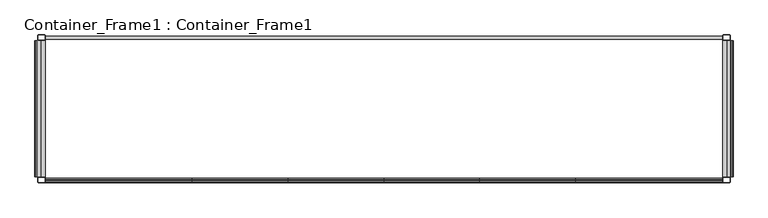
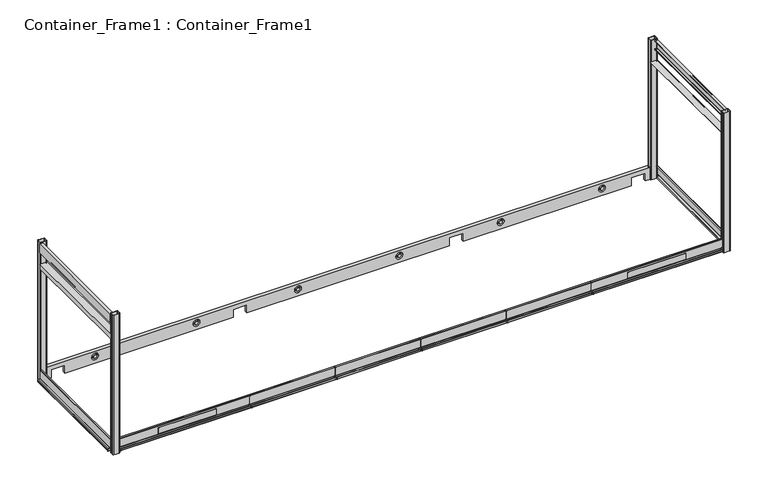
"""IFC4 building model written with IfcOpenShell, lengths in millimetres: beam geometry, Container_Frame1 : Container_Frame1."""

from ifc_helpers import new_model, si_unit, point, frame, frame_2d, origin, place, context, project, spatial, polyline, circle_curve, trimmed, segment, composite_curve, outline, extrude, source, transform, mapped, element, save


def container_frame1_container_frame1_d53c7349(model_context):
    return source(origin(), model_context, "Body", "SweptSolid", [
        extrude(outline(composite_curve([segment(polyline([(6789.0086196, -79.6304509), (6668.5913804, -79.6304509)]), True, "CONTINUOUS"), segment(trimmed(circle_curve(frame_2d((6668.5913804, -63.6390705)), 15.9913804), [point((6668.5913804, -79.6304509))], [point((6652.6, -63.6390705))], False, "CARTESIAN"), True, "CONTINUOUS"), segment(polyline([(6652.6, -63.6390705), (6652.6, 5.9781687)]), True, "CONTINUOUS"), segment(trimmed(circle_curve(frame_2d((6668.5913804, 5.9781687)), 15.9913804), [point((6652.6, 5.9781687))], [point((6668.5913804, 21.9695491))], False, "CARTESIAN"), True, "CONTINUOUS"), segment(polyline([(6668.5913804, 21.9695491), (6789.0086196, 21.9695491)]), True, "CONTINUOUS"), segment(trimmed(circle_curve(frame_2d((6789.0086196, 5.9781687)), 15.9913804), [point((6789.0086196, 21.9695491))], [point((6805.0, 5.9781687))], False, "CARTESIAN"), True, "CONTINUOUS"), segment(polyline([(6805.0, 5.9781687), (6805.0, -63.6390705)]), True, "CONTINUOUS"), segment(trimmed(circle_curve(frame_2d((6789.0086196, -63.6390705)), 15.9913804), [point((6805.0, -63.6390705))], [point((6789.0086196, -79.6304509))], False, "CARTESIAN"), True, "CONTINUOUS")], self_intersect=False), holes=[composite_curve([segment(trimmed(circle_curve(frame_2d((6789.0086196, -63.6390705)), 7.9913804), [point((6789.0086196, -71.6304509))], [point((6797.0, -63.6390705))], True, "CARTESIAN"), True, "CONTINUOUS"), segment(polyline([(6797.0, -63.6390705), (6797.0, 5.9781687)]), True, "CONTINUOUS"), segment(trimmed(circle_curve(frame_2d((6789.0086196, 5.9781687)), 7.9913804), [point((6797.0, 5.9781687))], [point((6789.0086196, 13.9695491))], True, "CARTESIAN"), True, "CONTINUOUS"), segment(polyline([(6789.0086196, 13.9695491), (6668.5913804, 13.9695491)]), True, "CONTINUOUS"), segment(trimmed(circle_curve(frame_2d((6668.5913804, 5.9781687)), 7.9913804), [point((6668.5913804, 13.9695491))], [point((6660.6, 5.9781687))], True, "CARTESIAN"), True, "CONTINUOUS"), segment(polyline([(6660.6, 5.9781687), (6660.6, -63.6390705)]), True, "CONTINUOUS"), segment(trimmed(circle_curve(frame_2d((6668.5913804, -63.6390705)), 7.9913804), [point((6660.6, -63.6390705))], [point((6668.5913804, -71.6304509))], True, "CARTESIAN"), True, "CONTINUOUS"), segment(polyline([(6668.5913804, -71.6304509), (6789.0086196, -71.6304509)]), True, "CONTINUOUS")], self_intersect=False)]), frame((0.0, 0.0, 25.0), z_axis=(0.0, 0.0, 1.0), x_axis=(1.0, 0.0, 0.0)), (0.0, 0.0, 1.0), 3250.0),
        extrude(outline(composite_curve([segment(trimmed(circle_curve(frame_2d((-6789.0086196, -63.6390705)), 15.9913804), [point((-6789.0086196, -79.6304509))], [point((-6805.0, -63.6390705))], False, "CARTESIAN"), True, "CONTINUOUS"), segment(polyline([(-6805.0, -63.6390705), (-6805.0, 5.9781687)]), True, "CONTINUOUS"), segment(trimmed(circle_curve(frame_2d((-6789.0086196, 5.9781687)), 15.9913804), [point((-6805.0, 5.9781687))], [point((-6789.0086196, 21.9695491))], False, "CARTESIAN"), True, "CONTINUOUS"), segment(polyline([(-6789.0086196, 21.9695491), (-6668.5913804, 21.9695491)]), True, "CONTINUOUS"), segment(trimmed(circle_curve(frame_2d((-6668.5913804, 5.9781687)), 15.9913804), [point((-6668.5913804, 21.9695491))], [point((-6652.6, 5.9781687))], False, "CARTESIAN"), True, "CONTINUOUS"), segment(polyline([(-6652.6, 5.9781687), (-6652.6, -63.6390705)]), True, "CONTINUOUS"), segment(trimmed(circle_curve(frame_2d((-6668.5913804, -63.6390705)), 15.9913804), [point((-6652.6, -63.6390705))], [point((-6668.5913804, -79.6304509))], False, "CARTESIAN"), True, "CONTINUOUS"), segment(polyline([(-6668.5913804, -79.6304509), (-6789.0086196, -79.6304509)]), True, "CONTINUOUS")], self_intersect=False), holes=[composite_curve([segment(polyline([(-6789.0086196, -71.6304509), (-6668.5913804, -71.6304509)]), True, "CONTINUOUS"), segment(trimmed(circle_curve(frame_2d((-6668.5913804, -63.6390705)), 7.9913804), [point((-6668.5913804, -71.6304509))], [point((-6660.6, -63.6390705))], True, "CARTESIAN"), True, "CONTINUOUS"), segment(polyline([(-6660.6, -63.6390705), (-6660.6, 5.9781687)]), True, "CONTINUOUS"), segment(trimmed(circle_curve(frame_2d((-6668.5913804, 5.9781687)), 7.9913804), [point((-6660.6, 5.9781687))], [point((-6668.5913804, 13.9695491))], True, "CARTESIAN"), True, "CONTINUOUS"), segment(polyline([(-6668.5913804, 13.9695491), (-6789.0086196, 13.9695491)]), True, "CONTINUOUS"), segment(trimmed(circle_curve(frame_2d((-6789.0086196, 5.9781687)), 7.9913804), [point((-6789.0086196, 13.9695491))], [point((-6797.0, 5.9781687))], True, "CARTESIAN"), True, "CONTINUOUS"), segment(polyline([(-6797.0, 5.9781687), (-6797.0, -63.6390705)]), True, "CONTINUOUS"), segment(trimmed(circle_curve(frame_2d((-6789.0086196, -63.6390705)), 7.9913804), [point((-6797.0, -63.6390705))], [point((-6789.0086196, -71.6304509))], True, "CARTESIAN"), True, "CONTINUOUS")], self_intersect=False)]), frame((0.0, 0.0, 25.0), z_axis=(0.0, 0.0, 1.0), x_axis=(1.0, 0.0, 0.0)), (0.0, 0.0, 1.0), 3250.0),
        extrude(outline(composite_curve([segment(trimmed(circle_curve(frame_2d((6789.0086196, -2792.4218313)), 15.9913804), [point((6789.0086196, -2776.4304509))], [point((6805.0, -2792.4218313))], False, "CARTESIAN"), True, "CONTINUOUS"), segment(polyline([(6805.0, -2792.4218313), (6805.0, -2862.0390705)]), True, "CONTINUOUS"), segment(trimmed(circle_curve(frame_2d((6789.0086196, -2862.0390705)), 15.9913804), [point((6805.0, -2862.0390705))], [point((6789.0086196, -2878.0304509))], False, "CARTESIAN"), True, "CONTINUOUS"), segment(polyline([(6789.0086196, -2878.0304509), (6668.5913804, -2878.0304509)]), True, "CONTINUOUS"), segment(trimmed(circle_curve(frame_2d((6668.5913804, -2862.0390705)), 15.9913804), [point((6668.5913804, -2878.0304509))], [point((6652.6, -2862.0390705))], False, "CARTESIAN"), True, "CONTINUOUS"), segment(polyline([(6652.6, -2862.0390705), (6652.6, -2792.4218313)]), True, "CONTINUOUS"), segment(trimmed(circle_curve(frame_2d((6668.5913804, -2792.4218313)), 15.9913804), [point((6652.6, -2792.4218313))], [point((6668.5913804, -2776.4304509))], False, "CARTESIAN"), True, "CONTINUOUS"), segment(polyline([(6668.5913804, -2776.4304509), (6789.0086196, -2776.4304509)]), True, "CONTINUOUS")], self_intersect=False), holes=[composite_curve([segment(polyline([(6789.0086196, -2784.4304509), (6668.5913804, -2784.4304509)]), True, "CONTINUOUS"), segment(trimmed(circle_curve(frame_2d((6668.5913804, -2792.4218313)), 7.9913804), [point((6668.5913804, -2784.4304509))], [point((6660.6, -2792.4218313))], True, "CARTESIAN"), True, "CONTINUOUS"), segment(polyline([(6660.6, -2792.4218313), (6660.6, -2862.0390705)]), True, "CONTINUOUS"), segment(trimmed(circle_curve(frame_2d((6668.5913804, -2862.0390705)), 7.9913804), [point((6660.6, -2862.0390705))], [point((6668.5913804, -2870.0304509))], True, "CARTESIAN"), True, "CONTINUOUS"), segment(polyline([(6668.5913804, -2870.0304509), (6789.0086196, -2870.0304509)]), True, "CONTINUOUS"), segment(trimmed(circle_curve(frame_2d((6789.0086196, -2862.0390705)), 7.9913804), [point((6789.0086196, -2870.0304509))], [point((6797.0, -2862.0390705))], True, "CARTESIAN"), True, "CONTINUOUS"), segment(polyline([(6797.0, -2862.0390705), (6797.0, -2792.4218313)]), True, "CONTINUOUS"), segment(trimmed(circle_curve(frame_2d((6789.0086196, -2792.4218313)), 7.9913804), [point((6797.0, -2792.4218313))], [point((6789.0086196, -2784.4304509))], True, "CARTESIAN"), True, "CONTINUOUS")], self_intersect=False)]), frame((0.0, 0.0, 25.0), z_axis=(0.0, 0.0, 1.0), x_axis=(1.0, 0.0, 0.0)), (0.0, 0.0, 1.0), 3250.0),
        extrude(outline(composite_curve([segment(polyline([(-6789.0086196, -2776.4304509), (-6668.5913804, -2776.4304509)]), True, "CONTINUOUS"), segment(trimmed(circle_curve(frame_2d((-6668.5913804, -2792.4218313)), 15.9913804), [point((-6668.5913804, -2776.4304509))], [point((-6652.6, -2792.4218313))], False, "CARTESIAN"), True, "CONTINUOUS"), segment(polyline([(-6652.6, -2792.4218313), (-6652.6, -2862.0390705)]), True, "CONTINUOUS"), segment(trimmed(circle_curve(frame_2d((-6668.5913804, -2862.0390705)), 15.9913804), [point((-6652.6, -2862.0390705))], [point((-6668.5913804, -2878.0304509))], False, "CARTESIAN"), True, "CONTINUOUS"), segment(polyline([(-6668.5913804, -2878.0304509), (-6789.0086196, -2878.0304509)]), True, "CONTINUOUS"), segment(trimmed(circle_curve(frame_2d((-6789.0086196, -2862.0390705)), 15.9913804), [point((-6789.0086196, -2878.0304509))], [point((-6805.0, -2862.0390705))], False, "CARTESIAN"), True, "CONTINUOUS"), segment(polyline([(-6805.0, -2862.0390705), (-6805.0, -2792.4218313)]), True, "CONTINUOUS"), segment(trimmed(circle_curve(frame_2d((-6789.0086196, -2792.4218313)), 15.9913804), [point((-6805.0, -2792.4218313))], [point((-6789.0086196, -2776.4304509))], False, "CARTESIAN"), True, "CONTINUOUS")], self_intersect=False), holes=[composite_curve([segment(trimmed(circle_curve(frame_2d((-6789.0086196, -2792.4218313)), 7.9913804), [point((-6789.0086196, -2784.4304509))], [point((-6797.0, -2792.4218313))], True, "CARTESIAN"), True, "CONTINUOUS"), segment(polyline([(-6797.0, -2792.4218313), (-6797.0, -2862.0390705)]), True, "CONTINUOUS"), segment(trimmed(circle_curve(frame_2d((-6789.0086196, -2862.0390705)), 7.9913804), [point((-6797.0, -2862.0390705))], [point((-6789.0086196, -2870.0304509))], True, "CARTESIAN"), True, "CONTINUOUS"), segment(polyline([(-6789.0086196, -2870.0304509), (-6668.5913804, -2870.0304509)]), True, "CONTINUOUS"), segment(trimmed(circle_curve(frame_2d((-6668.5913804, -2862.0390705)), 7.9913804), [point((-6668.5913804, -2870.0304509))], [point((-6660.6, -2862.0390705))], True, "CARTESIAN"), True, "CONTINUOUS"), segment(polyline([(-6660.6, -2862.0390705), (-6660.6, -2792.4218313)]), True, "CONTINUOUS"), segment(trimmed(circle_curve(frame_2d((-6668.5913804, -2792.4218313)), 7.9913804), [point((-6660.6, -2792.4218313))], [point((-6668.5913804, -2784.4304509))], True, "CARTESIAN"), True, "CONTINUOUS"), segment(polyline([(-6668.5913804, -2784.4304509), (-6789.0086196, -2784.4304509)]), True, "CONTINUOUS")], self_intersect=False)]), frame((0.0, 0.0, 25.0), z_axis=(0.0, 0.0, 1.0), x_axis=(1.0, 0.0, 0.0)), (0.0, 0.0, 1.0), 3250.0),
        extrude(outline(composite_curve([segment(polyline([(314.7500102, -6769.1), (318.0520108, -6769.1), (318.0520108, -6801.612)]), True, "CONTINUOUS"), segment(trimmed(circle_curve(frame_2d((312.4644222, -6801.612)), 5.5875886), [point((318.0520108, -6801.612))], [point((312.4644222, -6807.1995886))], False, "CARTESIAN"), True, "CONTINUOUS"), segment(polyline([(312.4644222, -6807.1995886), (118.6620064, -6807.1995886)]), True, "CONTINUOUS"), segment(trimmed(circle_curve(frame_2d((118.6620064, -6809.4855864)), 2.2859978), [point((118.6620064, -6807.1995886))], [point((116.3760086, -6809.4855864))], True, "CARTESIAN"), True, "CONTINUOUS"), segment(polyline([(116.3760086, -6809.4855864), (116.3760086, -6852.3427328)]), True, "CONTINUOUS"), segment(trimmed(circle_curve(frame_2d((110.7187414, -6852.3427328)), 5.6572672), [point((116.3760086, -6852.3427328))], [point((110.7187414, -6858.0))], False, "CARTESIAN"), True, "CONTINUOUS"), segment(polyline([(110.7187414, -6858.0), (71.1640109, -6858.0)]), True, "CONTINUOUS"), segment(trimmed(circle_curve(frame_2d((71.1640109, -6852.4119999)), 5.5880001), [point((71.1640109, -6858.0))], [point((65.5760108, -6852.4119999))], False, "CARTESIAN"), True, "CONTINUOUS"), segment(polyline([(65.5760108, -6852.4119999), (65.5760108, -6784.086)]), True, "CONTINUOUS"), segment(trimmed(circle_curve(frame_2d((63.2900108, -6784.086)), 2.286), [point((65.5760108, -6784.086))], [point((63.2900108, -6781.8))], True, "CARTESIAN"), True, "CONTINUOUS"), segment(polyline([(63.2900108, -6781.8), (35.3500108, -6781.8), (35.3500108, -6778.498), (63.2900108, -6778.498)]), True, "CONTINUOUS"), segment(trimmed(circle_curve(frame_2d((63.2900108, -6784.086)), 5.588), [point((63.2900108, -6778.498))], [point((68.8780108, -6784.086))], False, "CARTESIAN"), True, "CONTINUOUS"), segment(polyline([(68.8780108, -6784.086), (68.8780108, -6852.3427328)]), True, "CONTINUOUS"), segment(trimmed(circle_curve(frame_2d((71.2327725, -6852.3427328)), 2.3547617), [point((68.8780108, -6852.3427328))], [point((71.2327725, -6854.6974945))], True, "CARTESIAN"), True, "CONTINUOUS"), segment(polyline([(71.2327725, -6854.6974945), (110.7192501, -6854.6974945)]), True, "CONTINUOUS"), segment(trimmed(circle_curve(frame_2d((110.7192501, -6852.3427328)), 2.3547617), [point((110.7192501, -6854.6974945))], [point((113.0740118, -6852.3427328))], True, "CARTESIAN"), True, "CONTINUOUS"), segment(polyline([(113.0740118, -6852.3427328), (113.0740118, -6809.4863007)]), True, "CONTINUOUS"), segment(trimmed(circle_curve(frame_2d((118.6620428, -6809.4863007)), 5.588031), [point((113.0740118, -6809.4863007))], [point((118.6620428, -6803.8982697))], False, "CARTESIAN"), True, "CONTINUOUS"), segment(polyline([(118.6620428, -6803.8982697), (312.4637406, -6803.8982697)]), True, "CONTINUOUS"), segment(trimmed(circle_curve(frame_2d((312.4637406, -6801.612)), 2.2862697), [point((312.4637406, -6803.8982697))], [point((314.7500102, -6801.612))], True, "CARTESIAN"), True, "CONTINUOUS"), segment(polyline([(314.7500102, -6801.612), (314.7500102, -6769.1)]), True, "CONTINUOUS")], self_intersect=False)), frame((0.0, -2761.5304489, 0.0), z_axis=(0.0, 1.0, 0.0), x_axis=(0.0, 0.0, 1.0)), (0.0, 0.0, 1.0), 2666.9998774),
        extrude(outline(polyline([(32.8398424, 6652.6), (317.7802168, 6652.6), (317.7802168, -6652.6), (32.8398421, -6652.6), (32.8398421, -6553.2032702), (217.7558237, -6553.2032702), (217.7558237, -6247.4032702), (32.8398421, -6247.4032702), (32.8398421, -2540.9132702), (217.6615916, -2540.9132702), (217.6615916, -2235.1132702), (32.8398421, -2235.1132702), (32.8398421, 2229.7067298), (217.4684579, 2229.7067298), (217.4684579, 2535.5067298), (32.8398424, 2535.5067298), (32.8398424, 6241.8967298), (217.7557626, 6241.8967298), (217.7557626, 6547.6), (32.8398424, 6547.6), (32.8398424, 6652.6)]), holes=[composite_curve([segment(trimmed(circle_curve(frame_2d((190.0658466, 5594.3965615)), 75.0), [point((190.0658466, 5519.3965615))], [point((190.0658466, 5669.3965615))], True, "CARTESIAN"), True, "CONTINUOUS"), segment(trimmed(circle_curve(frame_2d((190.0658466, 5594.3965615)), 75.0), [point((190.0658466, 5669.3965615))], [point((190.0658466, 5519.3965615))], True, "CARTESIAN"), True, "CONTINUOUS")], self_intersect=False), composite_curve([segment(trimmed(circle_curve(frame_2d((190.0658466, 3359.3965615)), 75.0), [point((190.0658466, 3284.3965615))], [point((190.0658466, 3434.3965615))], True, "CARTESIAN"), True, "CONTINUOUS"), segment(trimmed(circle_curve(frame_2d((190.0658466, 3359.3965615)), 75.0), [point((190.0658466, 3434.3965615))], [point((190.0658466, 3284.3965615))], True, "CARTESIAN"), True, "CONTINUOUS")], self_intersect=False), composite_curve([segment(trimmed(circle_curve(frame_2d((190.0658466, 1124.3965615)), 75.0), [point((190.0658466, 1049.3965615))], [point((190.0658466, 1199.3965615))], True, "CARTESIAN"), True, "CONTINUOUS"), segment(trimmed(circle_curve(frame_2d((190.0658466, 1124.3965615)), 75.0), [point((190.0658466, 1199.3965615))], [point((190.0658466, 1049.3965615))], True, "CARTESIAN"), True, "CONTINUOUS")], self_intersect=False), composite_curve([segment(trimmed(circle_curve(frame_2d((190.0658466, -1110.6034385)), 75.0), [point((190.0658466, -1185.6034385))], [point((190.0658466, -1035.6034385))], True, "CARTESIAN"), True, "CONTINUOUS"), segment(trimmed(circle_curve(frame_2d((190.0658466, -1110.6034385)), 75.0), [point((190.0658466, -1035.6034385))], [point((190.0658466, -1185.6034385))], True, "CARTESIAN"), True, "CONTINUOUS")], self_intersect=False), composite_curve([segment(trimmed(circle_curve(frame_2d((190.0658466, -3345.6034385)), 75.0), [point((190.0658466, -3420.6034385))], [point((190.0658466, -3270.6034385))], True, "CARTESIAN"), True, "CONTINUOUS"), segment(trimmed(circle_curve(frame_2d((190.0658466, -3345.6034385)), 75.0), [point((190.0658466, -3270.6034385))], [point((190.0658466, -3420.6034385))], True, "CARTESIAN"), True, "CONTINUOUS")], self_intersect=False), composite_curve([segment(trimmed(circle_curve(frame_2d((190.0658466, -5580.6034385)), 75.0), [point((190.0658466, -5655.6034385))], [point((190.0658466, -5505.6034385))], True, "CARTESIAN"), True, "CONTINUOUS"), segment(trimmed(circle_curve(frame_2d((190.0658466, -5580.6034385)), 75.0), [point((190.0658466, -5505.6034385))], [point((190.0658466, -5655.6034385))], True, "CARTESIAN"), True, "CONTINUOUS")], self_intersect=False)]), frame((0.0, -65.0, 0.0), z_axis=(0.0, 1.0, 0.0), x_axis=(0.0, 0.0, 1.0)), (0.0, 0.0, 1.0), 65.0),
        extrude(outline(composite_curve([segment(trimmed(circle_curve(frame_2d((190.0655101, 5594.3967298)), 38.6719001), [point((190.0655101, 5555.7248296))], [point((190.0655101, 5633.0686299))], False, "CARTESIAN"), True, "CONTINUOUS"), segment(trimmed(circle_curve(frame_2d((190.0655101, 5594.3967298)), 38.6719001), [point((190.0655101, 5633.0686299))], [point((190.0655101, 5555.7248296))], False, "CARTESIAN"), True, "CONTINUOUS")], self_intersect=False)), frame((0.0, -65.0, 0.0), z_axis=(0.0, 1.0, 0.0), x_axis=(0.0, 0.0, 1.0)), (0.0, 0.0, 1.0), 65.0),
        extrude(outline(composite_curve([segment(trimmed(circle_curve(frame_2d((190.0655101, 3359.3967298)), 38.6719001), [point((190.0655101, 3320.7248296))], [point((190.0655101, 3398.0686299))], False, "CARTESIAN"), True, "CONTINUOUS"), segment(trimmed(circle_curve(frame_2d((190.0655101, 3359.3967298)), 38.6719001), [point((190.0655101, 3398.0686299))], [point((190.0655101, 3320.7248296))], False, "CARTESIAN"), True, "CONTINUOUS")], self_intersect=False)), frame((0.0, -65.0, 0.0), z_axis=(0.0, 1.0, 0.0), x_axis=(0.0, 0.0, 1.0)), (0.0, 0.0, 1.0), 65.0),
        extrude(outline(composite_curve([segment(trimmed(circle_curve(frame_2d((190.0655101, 1124.3967298)), 38.6719001), [point((190.0655101, 1085.7248296))], [point((190.0655101, 1163.0686299))], False, "CARTESIAN"), True, "CONTINUOUS"), segment(trimmed(circle_curve(frame_2d((190.0655101, 1124.3967298)), 38.6719001), [point((190.0655101, 1163.0686299))], [point((190.0655101, 1085.7248296))], False, "CARTESIAN"), True, "CONTINUOUS")], self_intersect=False)), frame((0.0, -65.0, 0.0), z_axis=(0.0, 1.0, 0.0), x_axis=(0.0, 0.0, 1.0)), (0.0, 0.0, 1.0), 65.0),
        extrude(outline(composite_curve([segment(trimmed(circle_curve(frame_2d((190.0655101, -1110.6032702)), 38.6719001), [point((190.0655101, -1149.2751704))], [point((190.0655101, -1071.9313701))], False, "CARTESIAN"), True, "CONTINUOUS"), segment(trimmed(circle_curve(frame_2d((190.0655101, -1110.6032702)), 38.6719001), [point((190.0655101, -1071.9313701))], [point((190.0655101, -1149.2751704))], False, "CARTESIAN"), True, "CONTINUOUS")], self_intersect=False)), frame((0.0, -65.0, 0.0), z_axis=(0.0, 1.0, 0.0), x_axis=(0.0, 0.0, 1.0)), (0.0, 0.0, 1.0), 65.0),
        extrude(outline(composite_curve([segment(trimmed(circle_curve(frame_2d((190.0655101, -3345.6032702)), 38.6719001), [point((190.0655101, -3384.2751704))], [point((190.0655101, -3306.9313701))], False, "CARTESIAN"), True, "CONTINUOUS"), segment(trimmed(circle_curve(frame_2d((190.0655101, -3345.6032702)), 38.6719001), [point((190.0655101, -3306.9313701))], [point((190.0655101, -3384.2751704))], False, "CARTESIAN"), True, "CONTINUOUS")], self_intersect=False)), frame((0.0, -65.0, 0.0), z_axis=(0.0, 1.0, 0.0), x_axis=(0.0, 0.0, 1.0)), (0.0, 0.0, 1.0), 65.0),
        extrude(outline(composite_curve([segment(trimmed(circle_curve(frame_2d((190.0655101, -5580.6032702)), 38.6719001), [point((190.0655101, -5619.2751704))], [point((190.0655101, -5541.9313701))], False, "CARTESIAN"), True, "CONTINUOUS"), segment(trimmed(circle_curve(frame_2d((190.0655101, -5580.6032702)), 38.6719001), [point((190.0655101, -5541.9313701))], [point((190.0655101, -5619.2751704))], False, "CARTESIAN"), True, "CONTINUOUS")], self_intersect=False)), frame((0.0, -65.0, 0.0), z_axis=(0.0, 1.0, 0.0), x_axis=(0.0, 0.0, 1.0)), (0.0, 0.0, 1.0), 65.0),
        extrude(outline(polyline([(5816.4260136, -2879.0304509), (4536.774, -2879.0304509), (4536.774, -2878.0304509), (5816.4260136, -2878.0304509), (5816.4260136, -2879.0304509)])), frame((0.0, 0.0, 173.3602393), z_axis=(0.0, 0.0, 1.0), x_axis=(1.0, 0.0, 0.0)), (0.0, 0.0, 1.0), 141.1179624),
        extrude(outline(polyline([(-4535.3739864, -2879.0304509), (-5815.026, -2879.0304509), (-5815.026, -2878.0304509), (-4535.3739864, -2878.0304509), (-4535.3739864, -2879.0304509)])), frame((0.0, 0.0, 173.3602393), z_axis=(0.0, 0.0, 1.0), x_axis=(1.0, 0.0, 0.0)), (0.0, 0.0, 1.0), 141.1179624),
        extrude(outline(composite_curve([segment(polyline([(-2789.0111176, 314.4782018), (-2821.5231139, 314.4782018)]), True, "CONTINUOUS"), segment(trimmed(circle_curve(frame_2d((-2821.5231139, 312.1921994)), 2.2860024), [point((-2821.5231139, 314.4782018))], [point((-2823.8091162, 312.1921994))], True, "CARTESIAN"), True, "CONTINUOUS"), segment(polyline([(-2823.8091162, 312.1921994), (-2823.8091162, 118.3420006)]), True, "CONTINUOUS"), segment(trimmed(circle_curve(frame_2d((-2829.391538, 118.6658126)), 5.5918054), [point((-2823.8091162, 118.3420006))], [point((-2829.391538, 113.0740072))], False, "CARTESIAN"), True, "CONTINUOUS"), segment(polyline([(-2829.391538, 113.0740072), (-2872.3175364, 113.0740072)]), True, "CONTINUOUS"), segment(trimmed(circle_curve(frame_2d((-2872.3175364, 110.7880073)), 2.286), [point((-2872.3175364, 113.0740072))], [point((-2874.6035364, 110.7880073))], True, "CARTESIAN"), True, "CONTINUOUS"), segment(polyline([(-2874.6035364, 110.7880073), (-2874.6035364, 71.1640072)]), True, "CONTINUOUS"), segment(trimmed(circle_curve(frame_2d((-2872.3175365, 71.1640072)), 2.2859999), [point((-2874.6035364, 71.1640072))], [point((-2872.3175365, 68.8780072))], True, "CARTESIAN"), True, "CONTINUOUS"), segment(polyline([(-2872.3175365, 68.8780072), (-2803.9915364, 68.8780073)]), True, "CONTINUOUS"), segment(trimmed(circle_curve(frame_2d((-2803.9915364, 63.2900073)), 5.588), [point((-2803.9915364, 68.8780073))], [point((-2798.4035364, 63.2900073))], False, "CARTESIAN"), True, "CONTINUOUS"), segment(polyline([(-2798.4035364, 63.2900073), (-2798.4035364, 35.3500073), (-2801.7055364, 35.3500073), (-2801.7055364, 63.2900073)]), True, "CONTINUOUS"), segment(trimmed(circle_curve(frame_2d((-2803.9915364, 63.2900073)), 2.286), [point((-2801.7055364, 63.2900073))], [point((-2803.9915364, 65.5760073))], True, "CARTESIAN"), True, "CONTINUOUS"), segment(polyline([(-2803.9915364, 65.5760073), (-2872.3175366, 65.5760073)]), True, "CONTINUOUS"), segment(trimmed(circle_curve(frame_2d((-2872.3175366, 71.1640072)), 5.5879999), [point((-2872.3175366, 65.5760073))], [point((-2877.9055365, 71.1640072))], False, "CARTESIAN"), True, "CONTINUOUS"), segment(polyline([(-2877.9055365, 71.1640072), (-2877.9055365, 110.7880087)]), True, "CONTINUOUS"), segment(trimmed(circle_curve(frame_2d((-2872.3175366, 110.7880087)), 5.5879999), [point((-2877.9055365, 110.7880087))], [point((-2872.3175366, 116.3760086))], False, "CARTESIAN"), True, "CONTINUOUS"), segment(polyline([(-2872.3175366, 116.3760086), (-2829.391538, 116.3760086)]), True, "CONTINUOUS"), segment(trimmed(circle_curve(frame_2d((-2829.391538, 118.6825446)), 2.306536), [point((-2829.391538, 116.3760086))], [point((-2827.105535, 118.9896246))], True, "CARTESIAN"), True, "CONTINUOUS"), segment(polyline([(-2827.105535, 118.9896246), (-2827.105535, 312.1977957)]), True, "CONTINUOUS"), segment(trimmed(circle_curve(frame_2d((-2821.5231139, 312.1977957)), 5.5824211), [point((-2827.105535, 312.1977957))], [point((-2821.5231139, 317.7802168))], False, "CARTESIAN"), True, "CONTINUOUS"), segment(polyline([(-2821.5231139, 317.7802168), (-2789.0111176, 317.7802168), (-2789.0111176, 314.4782018)]), True, "CONTINUOUS")], self_intersect=False)), frame((3766.2, 0.0, 0.0), z_axis=(1.0, 0.0, 0.0), x_axis=(0.0, 1.0, 0.0)), (0.0, 0.0, 1.0), 2886.4),
        extrude(outline(composite_curve([segment(polyline([(-2789.0111176, 314.4782018), (-2821.5231139, 314.4782018)]), True, "CONTINUOUS"), segment(trimmed(circle_curve(frame_2d((-2821.5231139, 312.1921994)), 2.2860024), [point((-2821.5231139, 314.4782018))], [point((-2823.8091162, 312.1921994))], True, "CARTESIAN"), True, "CONTINUOUS"), segment(polyline([(-2823.8091162, 312.1921994), (-2823.8091162, 118.3420006)]), True, "CONTINUOUS"), segment(trimmed(circle_curve(frame_2d((-2829.391538, 118.6658126)), 5.5918054), [point((-2823.8091162, 118.3420006))], [point((-2829.391538, 113.0740072))], False, "CARTESIAN"), True, "CONTINUOUS"), segment(polyline([(-2829.391538, 113.0740072), (-2872.3175364, 113.0740072)]), True, "CONTINUOUS"), segment(trimmed(circle_curve(frame_2d((-2872.3175364, 110.7880073)), 2.286), [point((-2872.3175364, 113.0740072))], [point((-2874.6035364, 110.7880073))], True, "CARTESIAN"), True, "CONTINUOUS"), segment(polyline([(-2874.6035364, 110.7880073), (-2874.6035364, 71.1640072)]), True, "CONTINUOUS"), segment(trimmed(circle_curve(frame_2d((-2872.3175365, 71.1640072)), 2.2859999), [point((-2874.6035364, 71.1640072))], [point((-2872.3175365, 68.8780072))], True, "CARTESIAN"), True, "CONTINUOUS"), segment(polyline([(-2872.3175365, 68.8780072), (-2803.9915364, 68.8780073)]), True, "CONTINUOUS"), segment(trimmed(circle_curve(frame_2d((-2803.9915364, 63.2900073)), 5.588), [point((-2803.9915364, 68.8780073))], [point((-2798.4035364, 63.2900073))], False, "CARTESIAN"), True, "CONTINUOUS"), segment(polyline([(-2798.4035364, 63.2900073), (-2798.4035364, 35.3500073), (-2801.7055364, 35.3500073), (-2801.7055364, 63.2900073)]), True, "CONTINUOUS"), segment(trimmed(circle_curve(frame_2d((-2803.9915364, 63.2900073)), 2.286), [point((-2801.7055364, 63.2900073))], [point((-2803.9915364, 65.5760073))], True, "CARTESIAN"), True, "CONTINUOUS"), segment(polyline([(-2803.9915364, 65.5760073), (-2872.3175366, 65.5760073)]), True, "CONTINUOUS"), segment(trimmed(circle_curve(frame_2d((-2872.3175366, 71.1640072)), 5.5879999), [point((-2872.3175366, 65.5760073))], [point((-2877.9055365, 71.1640072))], False, "CARTESIAN"), True, "CONTINUOUS"), segment(polyline([(-2877.9055365, 71.1640072), (-2877.9055365, 110.7880087)]), True, "CONTINUOUS"), segment(trimmed(circle_curve(frame_2d((-2872.3175366, 110.7880087)), 5.5879999), [point((-2877.9055365, 110.7880087))], [point((-2872.3175366, 116.3760086))], False, "CARTESIAN"), True, "CONTINUOUS"), segment(polyline([(-2872.3175366, 116.3760086), (-2829.391538, 116.3760086)]), True, "CONTINUOUS"), segment(trimmed(circle_curve(frame_2d((-2829.391538, 118.6825446)), 2.306536), [point((-2829.391538, 116.3760086))], [point((-2827.105535, 118.9896246))], True, "CARTESIAN"), True, "CONTINUOUS"), segment(polyline([(-2827.105535, 118.9896246), (-2827.105535, 312.1977957)]), True, "CONTINUOUS"), segment(trimmed(circle_curve(frame_2d((-2821.5231139, 312.1977957)), 5.5824211), [point((-2827.105535, 312.1977957))], [point((-2821.5231139, 317.7802168))], False, "CARTESIAN"), True, "CONTINUOUS"), segment(polyline([(-2821.5231139, 317.7802168), (-2789.0111176, 317.7802168), (-2789.0111176, 314.4782018)]), True, "CONTINUOUS")], self_intersect=False)), frame((1883.15, 0.0, 0.0), z_axis=(1.0, 0.0, 0.0), x_axis=(0.0, 1.0, 0.0)), (0.0, 0.0, 1.0), 1882.65),
        extrude(outline(composite_curve([segment(polyline([(-2789.1360321, 314.4782018), (-2821.6480283, 314.4782018)]), True, "CONTINUOUS"), segment(trimmed(circle_curve(frame_2d((-2821.6480283, 312.1921994)), 2.2860024), [point((-2821.6480283, 314.4782018))], [point((-2823.9340307, 312.1921994))], True, "CARTESIAN"), True, "CONTINUOUS"), segment(polyline([(-2823.9340307, 312.1921994), (-2823.9340307, 118.3420006)]), True, "CONTINUOUS"), segment(trimmed(circle_curve(frame_2d((-2829.5164525, 118.6658126)), 5.5918054), [point((-2823.9340307, 118.3420006))], [point((-2829.5164525, 113.0740072))], False, "CARTESIAN"), True, "CONTINUOUS"), segment(polyline([(-2829.5164525, 113.0740072), (-2872.4424508, 113.0740072)]), True, "CONTINUOUS"), segment(trimmed(circle_curve(frame_2d((-2872.4424508, 110.7880073)), 2.286), [point((-2872.4424508, 113.0740072))], [point((-2874.7284509, 110.7880073))], True, "CARTESIAN"), True, "CONTINUOUS"), segment(polyline([(-2874.7284509, 110.7880073), (-2874.7284509, 71.1640072)]), True, "CONTINUOUS"), segment(trimmed(circle_curve(frame_2d((-2872.4424509, 71.1640072)), 2.2859999), [point((-2874.7284509, 71.1640072))], [point((-2872.4424509, 68.8780072))], True, "CARTESIAN"), True, "CONTINUOUS"), segment(polyline([(-2872.4424509, 68.8780072), (-2804.1164508, 68.8780073)]), True, "CONTINUOUS"), segment(trimmed(circle_curve(frame_2d((-2804.1164508, 63.2900073)), 5.588), [point((-2804.1164508, 68.8780073))], [point((-2798.5284508, 63.2900073))], False, "CARTESIAN"), True, "CONTINUOUS"), segment(polyline([(-2798.5284508, 63.2900073), (-2798.5284508, 35.3500073), (-2801.8304508, 35.3500073), (-2801.8304508, 63.2900073)]), True, "CONTINUOUS"), segment(trimmed(circle_curve(frame_2d((-2804.1164508, 63.2900073)), 2.286), [point((-2801.8304508, 63.2900073))], [point((-2804.1164508, 65.5760073))], True, "CARTESIAN"), True, "CONTINUOUS"), segment(polyline([(-2804.1164508, 65.5760073), (-2872.442451, 65.5760073)]), True, "CONTINUOUS"), segment(trimmed(circle_curve(frame_2d((-2872.442451, 71.1640072)), 5.5879999), [point((-2872.442451, 65.5760073))], [point((-2878.0304509, 71.1640072))], False, "CARTESIAN"), True, "CONTINUOUS"), segment(polyline([(-2878.0304509, 71.1640072), (-2878.0304509, 110.7880087)]), True, "CONTINUOUS"), segment(trimmed(circle_curve(frame_2d((-2872.442451, 110.7880087)), 5.5879999), [point((-2878.0304509, 110.7880087))], [point((-2872.442451, 116.3760086))], False, "CARTESIAN"), True, "CONTINUOUS"), segment(polyline([(-2872.442451, 116.3760086), (-2829.5164525, 116.3760086)]), True, "CONTINUOUS"), segment(trimmed(circle_curve(frame_2d((-2829.5164525, 118.6825446)), 2.306536), [point((-2829.5164525, 116.3760086))], [point((-2827.2304494, 118.9896246))], True, "CARTESIAN"), True, "CONTINUOUS"), segment(polyline([(-2827.2304494, 118.9896246), (-2827.2304494, 312.1977957)]), True, "CONTINUOUS"), segment(trimmed(circle_curve(frame_2d((-2821.6480283, 312.1977957)), 5.5824211), [point((-2827.2304494, 312.1977957))], [point((-2821.6480283, 317.7802168))], False, "CARTESIAN"), True, "CONTINUOUS"), segment(polyline([(-2821.6480283, 317.7802168), (-2789.1360321, 317.7802168), (-2789.1360321, 314.4782018)]), True, "CONTINUOUS")], self_intersect=False)), frame((0.1, 0.0, 0.0), z_axis=(1.0, 0.0, 0.0), x_axis=(0.0, 1.0, 0.0)), (0.0, 0.0, 1.0), 1882.65),
        extrude(outline(composite_curve([segment(polyline([(-2789.1360321, 314.4782018), (-2821.6480283, 314.4782018)]), True, "CONTINUOUS"), segment(trimmed(circle_curve(frame_2d((-2821.6480283, 312.1921994)), 2.2860024), [point((-2821.6480283, 314.4782018))], [point((-2823.9340307, 312.1921994))], True, "CARTESIAN"), True, "CONTINUOUS"), segment(polyline([(-2823.9340307, 312.1921994), (-2823.9340307, 118.3420006)]), True, "CONTINUOUS"), segment(trimmed(circle_curve(frame_2d((-2829.5164525, 118.6658126)), 5.5918054), [point((-2823.9340307, 118.3420006))], [point((-2829.5164525, 113.0740072))], False, "CARTESIAN"), True, "CONTINUOUS"), segment(polyline([(-2829.5164525, 113.0740072), (-2872.4424508, 113.0740072)]), True, "CONTINUOUS"), segment(trimmed(circle_curve(frame_2d((-2872.4424508, 110.7880073)), 2.286), [point((-2872.4424508, 113.0740072))], [point((-2874.7284509, 110.7880073))], True, "CARTESIAN"), True, "CONTINUOUS"), segment(polyline([(-2874.7284509, 110.7880073), (-2874.7284509, 71.1640072)]), True, "CONTINUOUS"), segment(trimmed(circle_curve(frame_2d((-2872.4424509, 71.1640072)), 2.2859999), [point((-2874.7284509, 71.1640072))], [point((-2872.4424509, 68.8780072))], True, "CARTESIAN"), True, "CONTINUOUS"), segment(polyline([(-2872.4424509, 68.8780072), (-2804.1164508, 68.8780073)]), True, "CONTINUOUS"), segment(trimmed(circle_curve(frame_2d((-2804.1164508, 63.2900073)), 5.588), [point((-2804.1164508, 68.8780073))], [point((-2798.5284508, 63.2900073))], False, "CARTESIAN"), True, "CONTINUOUS"), segment(polyline([(-2798.5284508, 63.2900073), (-2798.5284508, 35.3500073), (-2801.8304508, 35.3500073), (-2801.8304508, 63.2900073)]), True, "CONTINUOUS"), segment(trimmed(circle_curve(frame_2d((-2804.1164508, 63.2900073)), 2.286), [point((-2801.8304508, 63.2900073))], [point((-2804.1164508, 65.5760073))], True, "CARTESIAN"), True, "CONTINUOUS"), segment(polyline([(-2804.1164508, 65.5760073), (-2872.442451, 65.5760073)]), True, "CONTINUOUS"), segment(trimmed(circle_curve(frame_2d((-2872.442451, 71.1640072)), 5.5879999), [point((-2872.442451, 65.5760073))], [point((-2878.0304509, 71.1640072))], False, "CARTESIAN"), True, "CONTINUOUS"), segment(polyline([(-2878.0304509, 71.1640072), (-2878.0304509, 110.7880087)]), True, "CONTINUOUS"), segment(trimmed(circle_curve(frame_2d((-2872.442451, 110.7880087)), 5.5879999), [point((-2878.0304509, 110.7880087))], [point((-2872.442451, 116.3760086))], False, "CARTESIAN"), True, "CONTINUOUS"), segment(polyline([(-2872.442451, 116.3760086), (-2829.5164525, 116.3760086)]), True, "CONTINUOUS"), segment(trimmed(circle_curve(frame_2d((-2829.5164525, 118.6825446)), 2.306536), [point((-2829.5164525, 116.3760086))], [point((-2827.2304494, 118.9896246))], True, "CARTESIAN"), True, "CONTINUOUS"), segment(polyline([(-2827.2304494, 118.9896246), (-2827.2304494, 312.1977957)]), True, "CONTINUOUS"), segment(trimmed(circle_curve(frame_2d((-2821.6480283, 312.1977957)), 5.5824211), [point((-2827.2304494, 312.1977957))], [point((-2821.6480283, 317.7802168))], False, "CARTESIAN"), True, "CONTINUOUS"), segment(polyline([(-2821.6480283, 317.7802168), (-2789.1360321, 317.7802168), (-2789.1360321, 314.4782018)]), True, "CONTINUOUS")], self_intersect=False)), frame((-1882.75, 0.0, 0.0), z_axis=(1.0, 0.0, 0.0), x_axis=(0.0, 1.0, 0.0)), (0.0, 0.0, 1.0), 1882.65),
        extrude(outline(composite_curve([segment(polyline([(-2789.1360321, 314.4782018), (-2821.6480283, 314.4782018)]), True, "CONTINUOUS"), segment(trimmed(circle_curve(frame_2d((-2821.6480283, 312.1921994)), 2.2860024), [point((-2821.6480283, 314.4782018))], [point((-2823.9340307, 312.1921994))], True, "CARTESIAN"), True, "CONTINUOUS"), segment(polyline([(-2823.9340307, 312.1921994), (-2823.9340307, 118.3420006)]), True, "CONTINUOUS"), segment(trimmed(circle_curve(frame_2d((-2829.5164525, 118.6658126)), 5.5918054), [point((-2823.9340307, 118.3420006))], [point((-2829.5164525, 113.0740072))], False, "CARTESIAN"), True, "CONTINUOUS"), segment(polyline([(-2829.5164525, 113.0740072), (-2872.4424508, 113.0740072)]), True, "CONTINUOUS"), segment(trimmed(circle_curve(frame_2d((-2872.4424508, 110.7880073)), 2.286), [point((-2872.4424508, 113.0740072))], [point((-2874.7284509, 110.7880073))], True, "CARTESIAN"), True, "CONTINUOUS"), segment(polyline([(-2874.7284509, 110.7880073), (-2874.7284509, 71.1640072)]), True, "CONTINUOUS"), segment(trimmed(circle_curve(frame_2d((-2872.4424509, 71.1640072)), 2.2859999), [point((-2874.7284509, 71.1640072))], [point((-2872.4424509, 68.8780072))], True, "CARTESIAN"), True, "CONTINUOUS"), segment(polyline([(-2872.4424509, 68.8780072), (-2804.1164508, 68.8780073)]), True, "CONTINUOUS"), segment(trimmed(circle_curve(frame_2d((-2804.1164508, 63.2900073)), 5.588), [point((-2804.1164508, 68.8780073))], [point((-2798.5284508, 63.2900073))], False, "CARTESIAN"), True, "CONTINUOUS"), segment(polyline([(-2798.5284508, 63.2900073), (-2798.5284508, 35.3500073), (-2801.8304508, 35.3500073), (-2801.8304508, 63.2900073)]), True, "CONTINUOUS"), segment(trimmed(circle_curve(frame_2d((-2804.1164508, 63.2900073)), 2.286), [point((-2801.8304508, 63.2900073))], [point((-2804.1164508, 65.5760073))], True, "CARTESIAN"), True, "CONTINUOUS"), segment(polyline([(-2804.1164508, 65.5760073), (-2872.442451, 65.5760073)]), True, "CONTINUOUS"), segment(trimmed(circle_curve(frame_2d((-2872.442451, 71.1640072)), 5.5879999), [point((-2872.442451, 65.5760073))], [point((-2878.0304509, 71.1640072))], False, "CARTESIAN"), True, "CONTINUOUS"), segment(polyline([(-2878.0304509, 71.1640072), (-2878.0304509, 110.7880087)]), True, "CONTINUOUS"), segment(trimmed(circle_curve(frame_2d((-2872.442451, 110.7880087)), 5.5879999), [point((-2878.0304509, 110.7880087))], [point((-2872.442451, 116.3760086))], False, "CARTESIAN"), True, "CONTINUOUS"), segment(polyline([(-2872.442451, 116.3760086), (-2829.5164525, 116.3760086)]), True, "CONTINUOUS"), segment(trimmed(circle_curve(frame_2d((-2829.5164525, 118.6825446)), 2.306536), [point((-2829.5164525, 116.3760086))], [point((-2827.2304494, 118.9896246))], True, "CARTESIAN"), True, "CONTINUOUS"), segment(polyline([(-2827.2304494, 118.9896246), (-2827.2304494, 312.1977957)]), True, "CONTINUOUS"), segment(trimmed(circle_curve(frame_2d((-2821.6480283, 312.1977957)), 5.5824211), [point((-2827.2304494, 312.1977957))], [point((-2821.6480283, 317.7802168))], False, "CARTESIAN"), True, "CONTINUOUS"), segment(polyline([(-2821.6480283, 317.7802168), (-2789.1360321, 317.7802168), (-2789.1360321, 314.4782018)]), True, "CONTINUOUS")], self_intersect=False)), frame((-3765.8, 0.0, 0.0), z_axis=(1.0, 0.0, 0.0), x_axis=(0.0, 1.0, 0.0)), (0.0, 0.0, 1.0), 1882.65),
        extrude(outline(composite_curve([segment(polyline([(314.7500102, 6769.1), (314.7500102, 6801.612)]), True, "CONTINUOUS"), segment(trimmed(circle_curve(frame_2d((312.4637406, 6801.612)), 2.2862697), [point((314.7500102, 6801.612))], [point((312.4637406, 6803.8982697))], True, "CARTESIAN"), True, "CONTINUOUS"), segment(polyline([(312.4637406, 6803.8982697), (118.6620428, 6803.8982697)]), True, "CONTINUOUS"), segment(trimmed(circle_curve(frame_2d((118.6620428, 6809.4863007)), 5.588031), [point((118.6620428, 6803.8982697))], [point((113.0740118, 6809.4863007))], False, "CARTESIAN"), True, "CONTINUOUS"), segment(polyline([(113.0740118, 6809.4863007), (113.0740118, 6852.3427328)]), True, "CONTINUOUS"), segment(trimmed(circle_curve(frame_2d((110.7192501, 6852.3427328)), 2.3547617), [point((113.0740118, 6852.3427328))], [point((110.7192501, 6854.6974945))], True, "CARTESIAN"), True, "CONTINUOUS"), segment(polyline([(110.7192501, 6854.6974945), (71.2327725, 6854.6974945)]), True, "CONTINUOUS"), segment(trimmed(circle_curve(frame_2d((71.2327725, 6852.3427328)), 2.3547617), [point((71.2327725, 6854.6974945))], [point((68.8780108, 6852.3427328))], True, "CARTESIAN"), True, "CONTINUOUS"), segment(polyline([(68.8780108, 6852.3427328), (68.8780108, 6784.086)]), True, "CONTINUOUS"), segment(trimmed(circle_curve(frame_2d((63.2900108, 6784.086)), 5.588), [point((68.8780108, 6784.086))], [point((63.2900108, 6778.498))], False, "CARTESIAN"), True, "CONTINUOUS"), segment(polyline([(63.2900108, 6778.498), (35.3500108, 6778.498), (35.3500108, 6781.8), (63.2900108, 6781.8)]), True, "CONTINUOUS"), segment(trimmed(circle_curve(frame_2d((63.2900108, 6784.086)), 2.286), [point((63.2900108, 6781.8))], [point((65.5760108, 6784.086))], True, "CARTESIAN"), True, "CONTINUOUS"), segment(polyline([(65.5760108, 6784.086), (65.5760108, 6852.4119999)]), True, "CONTINUOUS"), segment(trimmed(circle_curve(frame_2d((71.1640109, 6852.4119999)), 5.5880001), [point((65.5760108, 6852.4119999))], [point((71.1640109, 6858.0))], False, "CARTESIAN"), True, "CONTINUOUS"), segment(polyline([(71.1640109, 6858.0), (110.7187414, 6858.0)]), True, "CONTINUOUS"), segment(trimmed(circle_curve(frame_2d((110.7187414, 6852.3427328)), 5.6572672), [point((110.7187414, 6858.0))], [point((116.3760086, 6852.3427328))], False, "CARTESIAN"), True, "CONTINUOUS"), segment(polyline([(116.3760086, 6852.3427328), (116.3760086, 6809.4855864)]), True, "CONTINUOUS"), segment(trimmed(circle_curve(frame_2d((118.6620064, 6809.4855864)), 2.2859978), [point((116.3760086, 6809.4855864))], [point((118.6620064, 6807.1995886))], True, "CARTESIAN"), True, "CONTINUOUS"), segment(polyline([(118.6620064, 6807.1995886), (312.4644222, 6807.1995886)]), True, "CONTINUOUS"), segment(trimmed(circle_curve(frame_2d((312.4644222, 6801.612)), 5.5875886), [point((312.4644222, 6807.1995886))], [point((318.0520108, 6801.612))], False, "CARTESIAN"), True, "CONTINUOUS"), segment(polyline([(318.0520108, 6801.612), (318.0520108, 6769.1), (314.7500102, 6769.1)]), True, "CONTINUOUS")], self_intersect=False)), frame((0.0, -2761.5304489, 0.0), z_axis=(0.0, 1.0, 0.0), x_axis=(0.0, 0.0, 1.0)), (0.0, 0.0, 1.0), 2666.9998774),
        extrude(outline(composite_curve([segment(polyline([(2775.4, 6805.0), (2775.4, 6652.6), (2771.5265, 6652.6)]), True, "CONTINUOUS"), segment(trimmed(circle_curve(frame_2d((2771.5265, 6656.664)), 4.064), [point((2771.5265, 6652.6))], [point((2767.4625, 6656.664))], False, "CARTESIAN"), True, "CONTINUOUS"), segment(polyline([(2767.4625, 6656.664), (2767.4625, 6790.7125)]), True, "CONTINUOUS"), segment(trimmed(circle_curve(frame_2d((2761.1125, 6790.7125)), 6.35), [point((2767.4625, 6790.7125))], [point((2761.1125, 6797.0625))], True, "CARTESIAN"), True, "CONTINUOUS"), segment(polyline([(2761.1125, 6797.0625), (2677.864, 6797.0625)]), True, "CONTINUOUS"), segment(trimmed(circle_curve(frame_2d((2677.864, 6801.1265)), 4.064), [point((2677.864, 6797.0625))], [point((2673.8, 6801.1265))], False, "CARTESIAN"), True, "CONTINUOUS"), segment(polyline([(2673.8, 6801.1265), (2673.8, 6805.0), (2775.4, 6805.0)]), True, "CONTINUOUS")], self_intersect=False)), frame((0.0, -2776.446518, 0.0), z_axis=(0.0, 1.0, 0.0), x_axis=(0.0, 0.0, 1.0)), (0.0, 0.0, 1.0), 2696.8321342),
        extrude(outline(composite_curve([segment(polyline([(3250.0, 6805.0), (3250.0, 6741.5), (3245.7229376, 6741.5)]), True, "CONTINUOUS"), segment(trimmed(circle_curve(frame_2d((3245.7229376, 6744.8158224)), 3.3158224), [point((3245.7229376, 6741.5))], [point((3242.4071152, 6744.8158224))], False, "CARTESIAN"), True, "CONTINUOUS"), segment(polyline([(3242.4071152, 6744.8158224), (3238.9019187, 6784.8804019)]), True, "CONTINUOUS"), segment(trimmed(circle_curve(frame_2d((3231.4823205, 6784.8804019)), 7.4195981), [point((3238.9019187, 6784.8804019))], [point((3231.4823205, 6792.3))], True, "CARTESIAN"), True, "CONTINUOUS"), segment(polyline([(3231.4823205, 6792.3), (3065.9951518, 6792.3)]), True, "CONTINUOUS"), segment(trimmed(circle_curve(frame_2d((3065.9951518, 6784.1379756)), 8.1620244), [point((3065.9951518, 6792.3))], [point((3057.9571269, 6785.5552963))], True, "CARTESIAN"), True, "CONTINUOUS"), segment(polyline([(3057.9571269, 6785.5552963), (3054.3928848, 6744.8158224)]), True, "CONTINUOUS"), segment(trimmed(circle_curve(frame_2d((3051.0770624, 6744.8158224)), 3.3158224), [point((3054.3928848, 6744.8158224))], [point((3051.0770624, 6741.5))], False, "CARTESIAN"), True, "CONTINUOUS"), segment(polyline([(3051.0770624, 6741.5), (3046.8, 6741.5), (3046.8, 6805.0), (3250.0, 6805.0)]), True, "CONTINUOUS")], self_intersect=False)), frame((0.0, -2776.4304509, 0.0), z_axis=(0.0, 1.0, 0.0), x_axis=(0.0, 0.0, 1.0)), (0.0, 0.0, 1.0), 2696.8),
        extrude(outline(composite_curve([segment(polyline([(2775.4, -6805.0), (2673.8, -6805.0), (2673.8, -6801.1265)]), True, "CONTINUOUS"), segment(trimmed(circle_curve(frame_2d((2677.864, -6801.1265)), 4.064), [point((2673.8, -6801.1265))], [point((2677.864, -6797.0625))], False, "CARTESIAN"), True, "CONTINUOUS"), segment(polyline([(2677.864, -6797.0625), (2761.1125, -6797.0625)]), True, "CONTINUOUS"), segment(trimmed(circle_curve(frame_2d((2761.1125, -6790.7125)), 6.35), [point((2761.1125, -6797.0625))], [point((2767.4625, -6790.7125))], True, "CARTESIAN"), True, "CONTINUOUS"), segment(polyline([(2767.4625, -6790.7125), (2767.4625, -6656.664)]), True, "CONTINUOUS"), segment(trimmed(circle_curve(frame_2d((2771.5265, -6656.664)), 4.064), [point((2767.4625, -6656.664))], [point((2771.5265, -6652.6))], False, "CARTESIAN"), True, "CONTINUOUS"), segment(polyline([(2771.5265, -6652.6), (2775.4, -6652.6), (2775.4, -6805.0)]), True, "CONTINUOUS")], self_intersect=False)), frame((0.0, -2776.446518, 0.0), z_axis=(0.0, 1.0, 0.0), x_axis=(0.0, 0.0, 1.0)), (0.0, 0.0, 1.0), 2696.8321342),
        extrude(outline(composite_curve([segment(polyline([(3250.0, -6810.0), (3046.8, -6810.0), (3046.8, -6746.5), (3051.0770624, -6746.5)]), True, "CONTINUOUS"), segment(trimmed(circle_curve(frame_2d((3051.0770624, -6749.8158224)), 3.3158224), [point((3051.0770624, -6746.5))], [point((3054.3928848, -6749.8158224))], False, "CARTESIAN"), True, "CONTINUOUS"), segment(polyline([(3054.3928848, -6749.8158224), (3057.9571269, -6790.5552963)]), True, "CONTINUOUS"), segment(trimmed(circle_curve(frame_2d((3065.9951518, -6789.1379756)), 8.1620244), [point((3057.9571269, -6790.5552963))], [point((3065.9951518, -6797.3))], True, "CARTESIAN"), True, "CONTINUOUS"), segment(polyline([(3065.9951518, -6797.3), (3231.4823205, -6797.3)]), True, "CONTINUOUS"), segment(trimmed(circle_curve(frame_2d((3231.4823205, -6789.8804019)), 7.4195981), [point((3231.4823205, -6797.3))], [point((3238.9019187, -6789.8804019))], True, "CARTESIAN"), True, "CONTINUOUS"), segment(polyline([(3238.9019187, -6789.8804019), (3242.4071152, -6749.8158224)]), True, "CONTINUOUS"), segment(trimmed(circle_curve(frame_2d((3245.7229376, -6749.8158224)), 3.3158224), [point((3242.4071152, -6749.8158224))], [point((3245.7229376, -6746.5))], False, "CARTESIAN"), True, "CONTINUOUS"), segment(polyline([(3245.7229376, -6746.5), (3250.0, -6746.5), (3250.0, -6810.0)]), True, "CONTINUOUS")], self_intersect=False)), frame((0.0, -2776.4304509, 0.0), z_axis=(0.0, 1.0, 0.0), x_axis=(0.0, 0.0, 1.0)), (0.0, 0.0, 1.0), 2696.8),
        extrude(outline(composite_curve([segment(polyline([(-2789.1360321, 314.4782018), (-2821.6480283, 314.4782018)]), True, "CONTINUOUS"), segment(trimmed(circle_curve(frame_2d((-2821.6480283, 312.1921994)), 2.2860024), [point((-2821.6480283, 314.4782018))], [point((-2823.9340307, 312.1921994))], True, "CARTESIAN"), True, "CONTINUOUS"), segment(polyline([(-2823.9340307, 312.1921994), (-2823.9340307, 118.3420006)]), True, "CONTINUOUS"), segment(trimmed(circle_curve(frame_2d((-2829.5164525, 118.6658126)), 5.5918054), [point((-2823.9340307, 118.3420006))], [point((-2829.5164525, 113.0740072))], False, "CARTESIAN"), True, "CONTINUOUS"), segment(polyline([(-2829.5164525, 113.0740072), (-2872.4424508, 113.0740072)]), True, "CONTINUOUS"), segment(trimmed(circle_curve(frame_2d((-2872.4424508, 110.7880073)), 2.286), [point((-2872.4424508, 113.0740072))], [point((-2874.7284509, 110.7880073))], True, "CARTESIAN"), True, "CONTINUOUS"), segment(polyline([(-2874.7284509, 110.7880073), (-2874.7284509, 71.1640072)]), True, "CONTINUOUS"), segment(trimmed(circle_curve(frame_2d((-2872.4424509, 71.1640072)), 2.2859999), [point((-2874.7284509, 71.1640072))], [point((-2872.4424509, 68.8780072))], True, "CARTESIAN"), True, "CONTINUOUS"), segment(polyline([(-2872.4424509, 68.8780072), (-2804.1164508, 68.8780073)]), True, "CONTINUOUS"), segment(trimmed(circle_curve(frame_2d((-2804.1164508, 63.2900073)), 5.588), [point((-2804.1164508, 68.8780073))], [point((-2798.5284508, 63.2900073))], False, "CARTESIAN"), True, "CONTINUOUS"), segment(polyline([(-2798.5284508, 63.2900073), (-2798.5284508, 35.3500073), (-2801.8304508, 35.3500073), (-2801.8304508, 63.2900073)]), True, "CONTINUOUS"), segment(trimmed(circle_curve(frame_2d((-2804.1164508, 63.2900073)), 2.286), [point((-2801.8304508, 63.2900073))], [point((-2804.1164508, 65.5760073))], True, "CARTESIAN"), True, "CONTINUOUS"), segment(polyline([(-2804.1164508, 65.5760073), (-2872.442451, 65.5760073)]), True, "CONTINUOUS"), segment(trimmed(circle_curve(frame_2d((-2872.442451, 71.1640072)), 5.5879999), [point((-2872.442451, 65.5760073))], [point((-2878.0304509, 71.1640072))], False, "CARTESIAN"), True, "CONTINUOUS"), segment(polyline([(-2878.0304509, 71.1640072), (-2878.0304509, 110.7880087)]), True, "CONTINUOUS"), segment(trimmed(circle_curve(frame_2d((-2872.442451, 110.7880087)), 5.5879999), [point((-2878.0304509, 110.7880087))], [point((-2872.442451, 116.3760086))], False, "CARTESIAN"), True, "CONTINUOUS"), segment(polyline([(-2872.442451, 116.3760086), (-2829.5164525, 116.3760086)]), True, "CONTINUOUS"), segment(trimmed(circle_curve(frame_2d((-2829.5164525, 118.6825446)), 2.306536), [point((-2829.5164525, 116.3760086))], [point((-2827.2304494, 118.9896246))], True, "CARTESIAN"), True, "CONTINUOUS"), segment(polyline([(-2827.2304494, 118.9896246), (-2827.2304494, 312.1977957)]), True, "CONTINUOUS"), segment(trimmed(circle_curve(frame_2d((-2821.6480283, 312.1977957)), 5.5824211), [point((-2827.2304494, 312.1977957))], [point((-2821.6480283, 317.7802168))], False, "CARTESIAN"), True, "CONTINUOUS"), segment(polyline([(-2821.6480283, 317.7802168), (-2789.1360321, 317.7802168), (-2789.1360321, 314.4782018)]), True, "CONTINUOUS")], self_intersect=False)), frame((-6652.6, 0.0, 0.0), z_axis=(1.0, 0.0, 0.0), x_axis=(0.0, 1.0, 0.0)), (0.0, 0.0, 1.0), 2886.4),
    ])


if __name__ == "__main__":
    model = new_model("IFC4")
    model_context = context("Model", 3, world=origin())
    ifc_project = project(units=[si_unit("LENGTHUNIT", "METRE", prefix="MILLI")], contexts=[model_context])
    site = spatial("IfcSite", under=ifc_project)
    building = spatial("IfcBuilding", under=site)
    placement = place(None, origin())
    container_frame1_container_frame1_shape = container_frame1_container_frame1_d53c7349(model_context)
    element("IfcBeam", 1, ObjectType="Container_Frame1 : Container_Frame1", at=placement, inside=building, context=model_context, shape_type="MappedRepresentation", body=[
        mapped(container_frame1_container_frame1_shape, transform((0.0, 0.0, 0.0), x_axis=(1.0, 0.0, 0.0), y_axis=(0.0, 1.0, 0.0), z_axis=(0.0, 0.0, 1.0))),
    ])
    save(model, "model.ifc")
